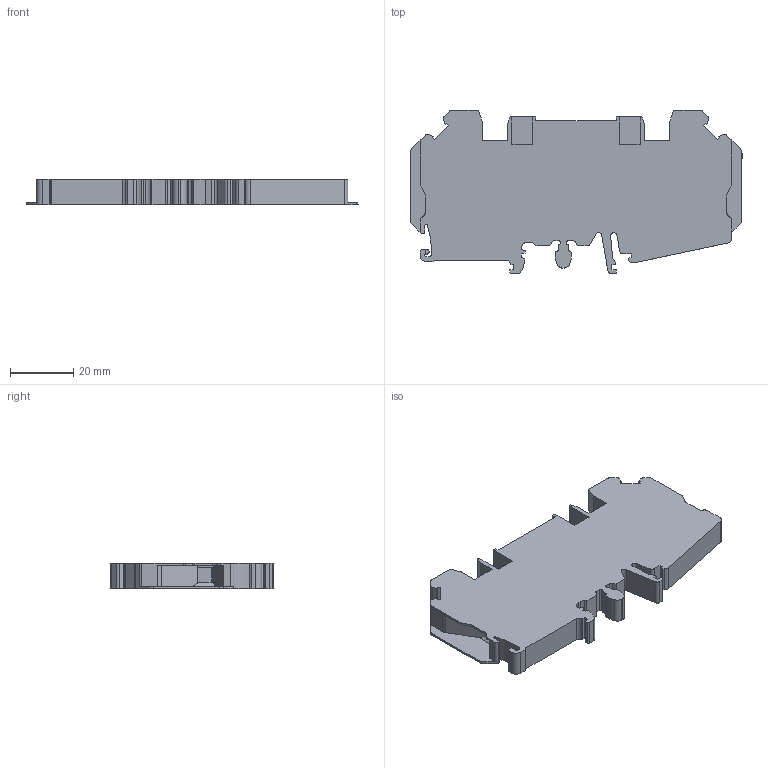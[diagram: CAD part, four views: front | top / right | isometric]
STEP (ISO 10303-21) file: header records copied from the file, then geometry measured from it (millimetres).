
FILE_DESCRIPTION(('SolidDesigner STEP Export'),'2;1');
FILE_NAME('3072817_UTD_6_SP-select.stp','2014-10-15T11:17:44',(''),(''),'Creo Elements/Direct Modeling STEP processor for AP214 (Solid Model)','Creo Elements/Direct Modeling 18.1 06-May-2012 (C) Parametric Technology GmbH','');
FILE_SCHEMA(('AUTOMOTIVE_DESIGN { 1 0 10303 214 1 1 1 1 }'));
Length unit declared in the file: millimetre
Products named in the file (2): 3072817_UTD_6_SP-select
Assembly tree (1 placements, depth 2):
  3072817_UTD_6_SP-select
    3072817_UTD_6_SP-select
Bounding box: 105.2 x 51.8 x 8.15 mm (x, y, z)
Volume: 29484.7 mm3; surface area: 13394.4 mm2
Topology: 1 solids, 1 shells, 242 faces, 714 edges, 476 vertices
Faces by surface type: plane 157, cylinder 85
Entity records: 9991 total; most frequent: ORIENTED_EDGE 1428, CARTESIAN_POINT 1421, DIRECTION 1353, EDGE_CURVE 714, VECTOR 537, LINE 537, VERTEX_POINT 476, AXIS2_PLACEMENT_3D 408
